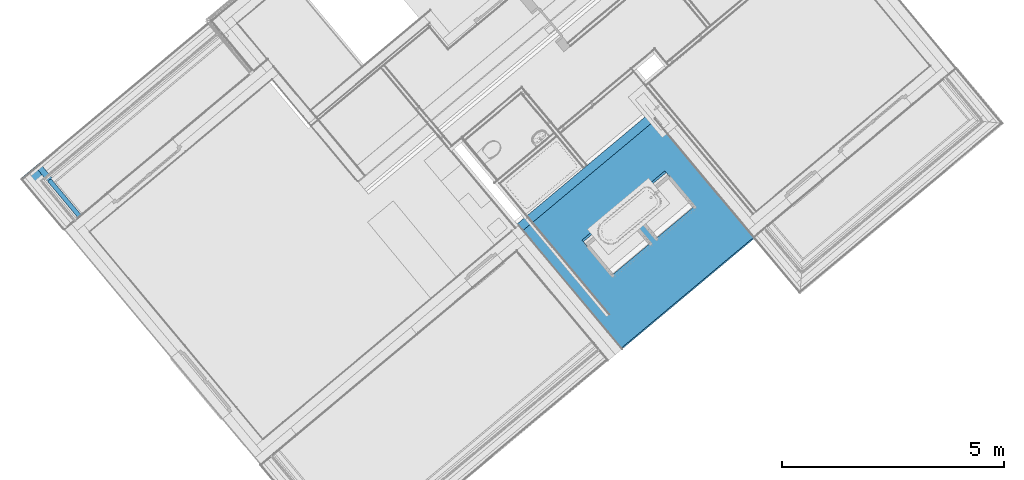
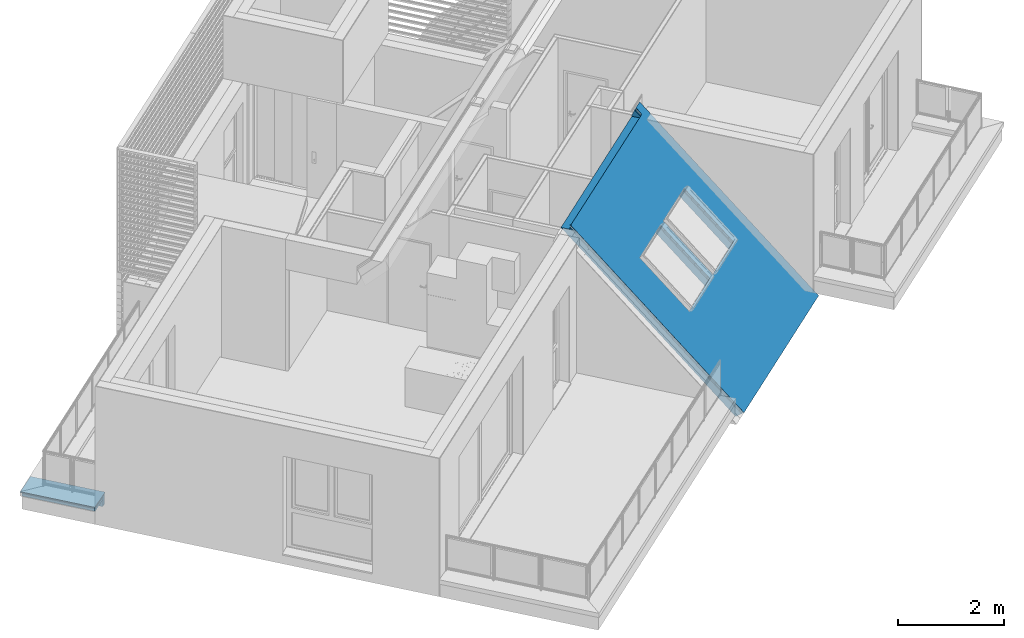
# One storey, part 17 of 47: 6 building element parts, 2 openings, 2 elements without a shape of their own.
"""IFC4 building model written with IfcOpenShell, lengths in metres."""

from ifc_helpers import new_model, entity, si_unit, converted_unit, derived_unit, direction, frame, origin_with_axes, place, context, subcontext, project, spatial, polygons, material, type_object, element, aggregate, save


model = new_model("IFC4")

# Units and contexts
model_context = context("Model", 3, precision=1e-05, world=origin_with_axes(), true_north=direction((0.0, 1.0)))
body_context = subcontext(model_context, "Body", "Model", "MODEL_VIEW")
ifc_project = project(units=[si_unit("LENGTHUNIT", "METRE"), si_unit("AREAUNIT", "SQUARE_METRE"), si_unit("VOLUMEUNIT", "CUBIC_METRE"), converted_unit("PLANEANGLEUNIT", "DEGREE", entity("IfcPlaneAngleMeasure", 0.0174532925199), si_unit("PLANEANGLEUNIT", "RADIAN"), dimensions=[0, 0, 0, 0, 0, 0, 0]), converted_unit("TIMEUNIT", "Year", entity("IfcTimeMeasure", 31556926.0), si_unit("TIMEUNIT", "SECOND"), dimensions=[0, 0, 1, 0, 0, 0, 0]), si_unit("MASSUNIT", "GRAM", prefix="KILO"), si_unit("THERMODYNAMICTEMPERATUREUNIT", "DEGREE_CELSIUS"), si_unit("LUMINOUSINTENSITYUNIT", "LUMEN"), si_unit("ENERGYUNIT", "JOULE", prefix="MEGA"), derived_unit("THERMALCONDUCTANCEUNIT", [(si_unit("POWERUNIT", "WATT"), 1), (si_unit("LENGTHUNIT", "METRE"), -1), (si_unit("THERMODYNAMICTEMPERATUREUNIT", "KELVIN"), -1)]), derived_unit("SPECIFICHEATCAPACITYUNIT", [(si_unit("ENERGYUNIT", "JOULE"), 1), (si_unit("MASSUNIT", "GRAM", prefix="KILO"), -1), (si_unit("THERMODYNAMICTEMPERATUREUNIT", "KELVIN"), -1)]), derived_unit("MASSDENSITYUNIT", [(si_unit("MASSUNIT", "GRAM", prefix="KILO"), 1), (si_unit("VOLUMEUNIT", "CUBIC_METRE"), -1)])], contexts=[model_context])

# Site, building, storey
site_placement = place(None, frame((-0.00153261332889, -0.00661245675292, 0.0), z_axis=(0.0, 0.0, 1.0), x_axis=(1.0, 0.0, 0.0)))
site = spatial("IfcSite", under=ifc_project, at=site_placement, Name="Site", CompositionType="ELEMENT")
building_placement = place(site_placement, origin_with_axes())
building = spatial("IfcBuilding", under=site, at=building_placement, Name="Building", CompositionType="ELEMENT")
storey_placement = place(building_placement, frame((0.0, 0.0, 8.66), z_axis=(0.0, 0.0, 1.0), x_axis=(1.0, 0.0, 0.0)))
storey = spatial("IfcBuildingStorey", under=building, at=storey_placement, Name="DG2", CompositionType="ELEMENT", Elevation=8.66)

# Wall, building element parts
wall_type = type_object("IfcWallType", Name="Bauteil - Attika Terrasse 1.DG 574 x 410", PredefinedType="NOTDEFINED")
wall_placement = place(storey_placement, frame((-7.57260314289, 18.0246792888, -0.2), z_axis=(0.0, 0.0, 1.0), x_axis=(-0.641209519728, 0.767365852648, 0.0)))
wall = element("IfcWall", 1, at=wall_placement, inside=storey, type_object=wall_type, Name="Wand-004", PredefinedType="NOTDEFINED")
ifc_material_1 = material(Name="Brettschichtholz")
building_element_part_1_placement = place(wall_placement, origin_with_axes())
building_element_part_1 = element("IfcBuildingElementPart", 2, at=building_element_part_1_placement, material=ifc_material_1, Name="Brettschichtholz", PredefinedType="NOTDEFINED", context=body_context, shape_type="Tessellation", body=[
    polygons([(1.4745376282, -0.200000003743, 0.519224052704), (1.47453764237, -0.200000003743, 0.559999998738), (0.0, -0.200000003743, 0.559999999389), (0.0, -0.200000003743, 0.500000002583), (1.47453762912, -0.200000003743, 0.499999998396), (1.47453762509, -0.200000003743, 0.50905023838), (1.47453762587, -0.200000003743, 0.511361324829), (1.47453764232, -0.159999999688, 0.559999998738), (1.47453762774, 0.214999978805, 0.519224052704), (1.47453764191, 0.214999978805, 0.559999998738), (1.47453764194, 0.190124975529, 0.559999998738), (1.474537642, 0.130124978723, 0.559999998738), (1.47453764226, -0.100000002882, 0.559999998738), (0.0, -0.159999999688, 0.559999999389), (0.0, 0.130124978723, 0.559999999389), (0.0, 0.190124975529, 0.559999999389), (0.0, 0.214999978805, 0.559999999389), (0.0, 0.214999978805, 0.499999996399), (0.0, -0.100000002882, 0.559999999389), (1.47453762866, 0.214999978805, 0.499999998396), (1.47453762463, 0.214999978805, 0.50905023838), (1.47453762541, 0.214999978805, 0.511361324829)], [[[1, 2, 3, 4, 5, 6, 7]], [[8, 2, 1, 9, 10, 11, 12, 13]], [[2, 8, 14, 3]], [[15, 16, 17, 18, 4, 3, 14, 19]], [[18, 20, 5, 4]], [[21, 6, 5, 20]], [[22, 7, 6, 21]], [[9, 1, 7, 22]], [[10, 9, 22, 21, 20, 18, 17]], [[11, 10, 17, 16]], [[12, 11, 16, 15]], [[13, 12, 15, 19]], [[8, 13, 19, 14]]], closed=True),
])
ifc_material_2 = material(Name="EPS 1")
building_element_part_2_placement = place(wall_placement, origin_with_axes())
building_element_part_2 = element("IfcBuildingElementPart", 3, at=building_element_part_2_placement, material=ifc_material_2, Name="EPS 1", PredefinedType="NOTDEFINED", context=body_context, shape_type="Tessellation", body=[
    polygons([(1.05953765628, -0.3, 0.519224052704), (1.05953765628, -0.3, 0.559999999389), (0.0, -0.3, 0.560000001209), (0.0, -0.3, 0.335), (1.0595376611, -0.3, 0.335), (1.0595376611, -0.3, 0.488695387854), (1.0595376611, -0.3, 0.49100648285), (1.0595376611, -0.3, 0.498822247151), (1.05953765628, -0.3, 0.500000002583), (1.05953765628, -0.3, 0.50905023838), (1.05953765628, -0.3, 0.511361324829), (1.05953765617, -0.2, 0.559999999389), (1.05953765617, -0.2, 0.519224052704), (0.0, -0.2, 0.560000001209), (0.0, -0.2, 0.335), (1.05953766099, -0.2, 0.335), (1.05953766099, -0.2, 0.488695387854), (1.05953766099, -0.2, 0.49100648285), (1.05953766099, -0.2, 0.498822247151), (1.05953765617, -0.2, 0.500000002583), (1.05953765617, -0.2, 0.50905023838), (1.05953765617, -0.2, 0.511361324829)], [[[1, 2, 3, 4, 5, 6, 7, 8, 9, 10, 11]], [[12, 2, 1, 13]], [[2, 12, 14, 3]], [[4, 3, 14, 15]], [[16, 5, 4, 15]], [[17, 6, 5, 16]], [[18, 7, 6, 17]], [[19, 8, 7, 18]], [[20, 9, 8, 19]], [[21, 10, 9, 20]], [[22, 11, 10, 21]], [[13, 1, 11, 22]], [[12, 13, 22, 21, 20, 19, 18, 17, 16, 15, 14]]], closed=True),
])
ifc_material_3 = material(Name="Holzwerkstoff")
building_element_part_3_placement = place(wall_placement, origin_with_axes())
building_element_part_3 = element("IfcBuildingElementPart", 4, at=building_element_part_3_placement, material=ifc_material_3, Name="Holzwerkstoff", PredefinedType="NOTDEFINED", context=body_context, shape_type="Tessellation", body=[
    polygons([(1.49953764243, 0.239999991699, 0.587852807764), (1.44952269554, 0.189984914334, 0.586106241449), (0.0, 0.189984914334, 0.586106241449), (0.0, 0.239999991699, 0.587852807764), (1.49953764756, -0.33069508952, 0.587852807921), (1.44952269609, -0.330634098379, 0.58610624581), (1.3896626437, 0.130124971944, 0.58401588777), (0.0, 0.130124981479, 0.584015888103), (0.0, -0.100000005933, 0.575979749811), (0.0, -0.160110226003, 0.573880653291), (0.0, -0.329999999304, 0.567947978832), (0.0, -0.330698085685, 0.587938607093), (0.0, 0.239276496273, 0.608570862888), (1.49953469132, 0.239997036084, 0.587937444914), (1.49881415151, 0.239276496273, 0.608570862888), (1.49953469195, -0.330698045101, 0.587937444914), (0.929537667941, -0.329999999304, 0.567947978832), (1.09942743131, -0.330207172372, 0.573880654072), (1.15953766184, -0.330280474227, 0.575979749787), (1.38966264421, -0.33056110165, 0.58401588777), (1.15953766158, -0.100000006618, 0.575979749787), (1.09942743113, -0.160110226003, 0.573880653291)], [[[1, 2, 3, 4]], [[2, 1, 5, 6]], [[2, 7, 8, 3]], [[3, 8, 9, 10, 11, 12, 13, 4]], [[14, 1, 4, 13, 15]], [[1, 14, 16, 5]], [[17, 18, 19, 20, 6, 5, 16, 12, 11]], [[7, 2, 6, 20]], [[7, 21, 9, 8]], [[21, 22, 10, 9]], [[22, 17, 11, 10]], [[16, 15, 13, 12]], [[14, 15, 16]], [[17, 22, 18]], [[22, 21, 19, 18]], [[21, 7, 20, 19]]], closed=True),
])
aggregate(wall, [building_element_part_1, building_element_part_2, building_element_part_3])

# Roof, openings, building element parts
roof_type = type_object("IfcRoofType", Name="Schrägdach Dachaufbau 210", PredefinedType="NOTDEFINED")
roof_placement = place(storey_placement, frame((8.03595450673, 17.419864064, -0.842445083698), z_axis=(0.0, 0.0, 1.0), x_axis=(-0.767011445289, -0.641633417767, 0.0)))
roof = element("IfcRoof", 5, at=roof_placement, inside=storey, type_object=roof_type, Name="Dach-001", PredefinedType="NOTDEFINED")
opening_1_placement = place(roof_placement, frame((2.43036337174, -1.76763323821, 1.22217300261), z_axis=(0.0, 0.0, 1.0), x_axis=(1.0, 0.0, 0.0)))
element("IfcOpeningElement", 6, at=opening_1_placement, cuts=roof, Name="DFenst-002", context=body_context, identifier="Reference", shape_type="Tessellation", body=[
    polygons([(0.57, 0.0, 0.842445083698), (-0.57, 0.0, 0.842445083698), (-0.57, 0.000707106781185, 0.84315219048), (0.57, 0.000707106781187, 0.84315219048), (0.57, 0.0, 0.544046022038), (-0.57, 0.0, 0.544046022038), (-0.57, -0.989949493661, 1.83239457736), (-0.57, -0.98924238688, 1.83310168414), (0.57, -0.98924238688, 1.83310168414), (0.57, -0.989949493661, 1.83239457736), (0.57, -1.28834855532, 1.83239457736), (-0.57, -1.28834855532, 1.83239457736)], [[[1, 2, 3, 4]], [[2, 1, 5, 6]], [[2, 7, 8, 3]], [[9, 4, 3, 8]], [[10, 1, 4, 9]], [[1, 10, 11, 5]], [[12, 6, 5, 11]], [[7, 2, 6, 12]], [[7, 10, 9, 8]], [[10, 7, 12, 11]]], closed=True),
])
opening_2_placement = place(roof_placement, frame((1.14038138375, -1.7653087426, 1.219848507), z_axis=(0.0, 0.0, 1.0), x_axis=(1.0, 0.0, 0.0)))
element("IfcOpeningElement", 7, at=opening_2_placement, cuts=roof, Name="DFenst-002", context=body_context, identifier="Reference", shape_type="Tessellation", body=[
    polygons([(0.57, 0.0, 0.842445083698), (-0.57, 0.0, 0.842445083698), (-0.57, 0.000707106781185, 0.84315219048), (0.57, 0.000707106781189, 0.84315219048), (0.57, 0.0, 0.544046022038), (-0.57, 0.0, 0.544046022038), (-0.57, -0.989949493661, 1.83239457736), (-0.57, -0.98924238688, 1.83310168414), (0.57, -0.98924238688, 1.83310168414), (0.57, -0.989949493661, 1.83239457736), (0.57, -1.28834855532, 1.83239457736), (-0.57, -1.28834855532, 1.83239457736)], [[[1, 2, 3, 4]], [[2, 1, 5, 6]], [[2, 7, 8, 3]], [[9, 4, 3, 8]], [[10, 1, 4, 9]], [[1, 10, 11, 5]], [[12, 6, 5, 11]], [[7, 2, 6, 12]], [[7, 10, 9, 8]], [[10, 7, 12, 11]]], closed=True),
])
ifc_material_4 = material(Name="Stehfalz")
building_element_part_4_placement = place(roof_placement, origin_with_axes())
building_element_part_4 = element("IfcBuildingElementPart", 8, at=building_element_part_4_placement, material=ifc_material_4, Name="Stehfalz", PredefinedType="NOTDEFINED", context=body_context, shape_type="Tessellation", body=[
    polygons([(3.86534512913, -3.8261048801, 4.1230897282), (3.87538129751, -3.83616755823, 4.13315240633), (3.87728791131, -0.345362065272, 0.642346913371), (-0.224209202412, -0.345362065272, 0.642346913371), (-0.225249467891, -3.94032672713, 4.23731157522), (-0.018900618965, -3.94277887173, 4.23976371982), (-0.0189111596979, -3.83598168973, 4.13296653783), (-0.00391113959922, -3.83600147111, 4.13298632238), (-0.00391262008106, -3.82100144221, 4.11798629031), (3.00036337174, -2.75758273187, 3.05456757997), (1.86036337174, -2.75758273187, 3.05456757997), (1.86036337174, -1.76763323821, 2.06461808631), (3.00036337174, -1.76763323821, 2.06461808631), (1.71038138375, -1.7653087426, 2.0622935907), (1.71038138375, -2.75525823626, 3.05224308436), (0.57038138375, -2.75525823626, 3.05224308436), (0.57038138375, -1.7653087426, 2.0622935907), (3.86534512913, -3.8261048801, 4.10894759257), (3.8753851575, -3.83617142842, 4.11901414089), (3.87728740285, -0.353364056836, 0.636206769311), (-0.22420947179, -0.353364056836, 0.636206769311), (-0.225248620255, -3.94446845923, 4.2273111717), (-0.0189002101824, -3.94692059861, 4.22976331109), (-0.0189111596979, -3.83598168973, 4.1188244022), (-0.00391113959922, -3.83600147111, 4.11884418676), (-0.00391262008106, -3.8210014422, 4.10384415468), (3.00036337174, -2.77172486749, 3.05456757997), (1.86036337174, -2.77172486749, 3.05456757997), (1.86036337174, -1.76763323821, 2.05047595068), (3.00036337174, -1.76763323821, 2.05047595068), (1.71038138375, -2.76940037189, 3.05224308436), (1.71038138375, -1.7653087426, 2.04815145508), (0.57038138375, -2.76940037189, 3.05224308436), (0.57038138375, -1.7653087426, 2.04815145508)], [[[1, 2, 3, 4, 5, 6, 7, 8, 9], [10, 11, 12, 13], [14, 15, 16, 17]], [[2, 1, 18, 19]], [[2, 19, 20, 3]], [[20, 21, 4, 3]], [[21, 22, 5, 4]], [[23, 6, 5, 22]], [[7, 6, 23, 24]], [[25, 8, 7, 24]], [[9, 8, 25, 26]], [[1, 9, 26, 18]], [[11, 10, 27, 28]], [[12, 11, 28, 29]], [[13, 12, 29, 30]], [[10, 13, 30, 27]], [[31, 15, 14, 32]], [[33, 16, 15, 31]], [[34, 17, 16, 33]], [[32, 14, 17, 34]], [[26, 25, 24, 23, 22, 21, 20, 19, 18], [27, 30, 29, 28], [33, 31, 32, 34]]], closed=True),
])
ifc_material_5 = material(Name="Luftschicht horizontal")
building_element_part_5_placement = place(roof_placement, origin_with_axes())
building_element_part_5 = element("IfcBuildingElementPart", 9, at=building_element_part_5_placement, material=ifc_material_5, Name="Luftschicht horizontal", PredefinedType="NOTDEFINED", context=body_context, shape_type="Tessellation", body=[
    polygons([(3.86534512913, -3.8261048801, 4.07359225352), (3.87539480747, -3.83618110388, 4.0836684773), (3.87728613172, -0.373369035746, 0.620856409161), (-0.224210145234, -0.373369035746, 0.620856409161), (-0.225246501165, -3.95482278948, 4.2023101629), (-0.0188991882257, -3.95727491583, 4.20476228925), (-0.0189111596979, -3.83598168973, 4.08346906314), (-0.00391113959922, -3.83600147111, 4.0834888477), (-0.00391262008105, -3.82100144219, 4.06848881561), (3.00036337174, -2.80708020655, 3.05456757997), (1.86036337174, -2.80708020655, 3.05456757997), (1.86036337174, -1.76763323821, 2.01512061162), (3.00036337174, -1.76763323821, 2.01512061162), (1.71038138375, -1.7653087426, 2.01279611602), (1.71038138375, -2.80475571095, 3.05224308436), (0.57038138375, -2.80475571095, 3.05224308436), (0.57038138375, -1.7653087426, 2.01279611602), (3.86534512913, -3.8261048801, 4.03823691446), (3.87540445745, -3.83619077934, 4.0483228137), (3.87728486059, -0.393374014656, 0.605506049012), (-0.224210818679, -0.393374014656, 0.605506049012), (-0.225244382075, -3.96517711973, 4.17730915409), (-0.018898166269, -3.96762923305, 4.17976126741), (-0.0189111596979, -3.83598168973, 4.04811372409), (-0.00391113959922, -3.83600147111, 4.04813350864), (-0.00391262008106, -3.82100144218, 4.03313347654), (3.00036337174, -2.84243554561, 3.05456757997), (1.86036337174, -2.84243554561, 3.05456757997), (1.86036337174, -1.76763323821, 1.97976527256), (3.00036337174, -1.76763323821, 1.97976527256), (1.71038138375, -2.84011105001, 3.05224308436), (1.71038138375, -1.7653087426, 1.97744077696), (0.57038138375, -2.84011105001, 3.05224308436), (0.57038138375, -1.7653087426, 1.97744077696)], [[[1, 2, 3, 4, 5, 6, 7, 8, 9], [10, 11, 12, 13], [14, 15, 16, 17]], [[2, 1, 18, 19]], [[2, 19, 20, 3]], [[20, 21, 4, 3]], [[21, 22, 5, 4]], [[23, 6, 5, 22]], [[7, 6, 23, 24]], [[25, 8, 7, 24]], [[9, 8, 25, 26]], [[1, 9, 26, 18]], [[11, 10, 27, 28]], [[12, 11, 28, 29]], [[13, 12, 29, 30]], [[10, 13, 30, 27]], [[31, 15, 14, 32]], [[33, 16, 15, 31]], [[34, 17, 16, 33]], [[32, 14, 17, 34]], [[26, 25, 24, 23, 22, 21, 20, 19, 18], [27, 30, 29, 28], [33, 31, 32, 34]]], closed=True),
])
building_element_part_6_placement = place(roof_placement, origin_with_axes())
building_element_part_6 = element("IfcBuildingElementPart", 10, at=building_element_part_6_placement, material=ifc_material_2, Name="EPS 1", PredefinedType="NOTDEFINED", context=body_context, shape_type="Tessellation", body=[
    polygons([(3.86534512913, -3.8261048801, 4.03823691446), (3.87540445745, -3.83619077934, 4.0483228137), (3.87728486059, -0.393374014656, 0.605506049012), (-0.224210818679, -0.393374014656, 0.605506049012), (-0.225244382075, -3.96517711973, 4.17730915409), (-0.0188981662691, -3.96762923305, 4.17976126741), (-0.0189111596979, -3.83598168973, 4.04811372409), (-0.00391113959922, -3.83600147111, 4.04813350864), (-0.00391262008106, -3.82100144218, 4.03313347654), (3.00036337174, -2.84243554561, 3.05456757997), (1.86036337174, -2.84243554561, 3.05456757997), (1.86036337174, -1.76763323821, 1.97976527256), (3.00036337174, -1.76763323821, 1.97976527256), (1.71038138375, -1.7653087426, 1.97744077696), (1.71038138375, -2.84011105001, 3.05224308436), (0.57038138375, -2.84011105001, 3.05224308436), (0.57038138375, -1.7653087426, 1.97744077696), (3.86534512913, -3.8261048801, 4.0224450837), (3.87541152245, -3.836197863, 4.0224450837), (3.87536066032, -4.02244508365, 4.0224450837), (3.8772772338, -0.513403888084, 0.513403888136), (-0.224214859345, -0.513403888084, 0.513403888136), (-0.225231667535, -4.02730310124, 4.02730310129), (-0.0188920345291, -4.02975513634, 4.0297551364), (-0.0188927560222, -4.02244508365, 4.0224450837), (-0.0189111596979, -3.83598168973, 4.0224450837), (-0.00391113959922, -3.83600147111, 4.0224450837), (-0.00391262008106, -3.82100144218, 4.0224450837), (3.00036337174, -3.05456757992, 3.05456757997), (1.86036337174, -3.05456757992, 3.05456757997), (1.86036337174, -1.76763323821, 1.76763323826), (3.00036337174, -1.76763323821, 1.76763323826), (1.71038138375, -3.05224308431, 3.05224308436), (1.71038138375, -1.7653087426, 1.76530874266), (0.57038138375, -3.05224308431, 3.05224308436), (0.57038138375, -1.7653087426, 1.76530874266)], [[[1, 2, 3, 4, 5, 6, 7, 8, 9], [10, 11, 12, 13], [14, 15, 16, 17]], [[2, 1, 18, 19]], [[19, 20, 21, 3, 2]], [[21, 22, 4, 3]], [[22, 23, 5, 4]], [[24, 6, 5, 23]], [[7, 6, 24, 25, 26]], [[27, 8, 7, 26]], [[9, 8, 27, 28]], [[1, 9, 28, 18]], [[11, 10, 29, 30]], [[12, 11, 30, 31]], [[13, 12, 31, 32]], [[10, 13, 32, 29]], [[33, 15, 14, 34]], [[35, 16, 15, 33]], [[36, 17, 16, 35]], [[34, 14, 17, 36]], [[19, 18, 28, 27, 26, 25, 20]], [[25, 24, 23, 22, 21, 20], [29, 32, 31, 30], [35, 33, 34, 36]]], closed=True),
])
aggregate(roof, [building_element_part_4, building_element_part_5, building_element_part_6])

save(model, "model.ifc")
